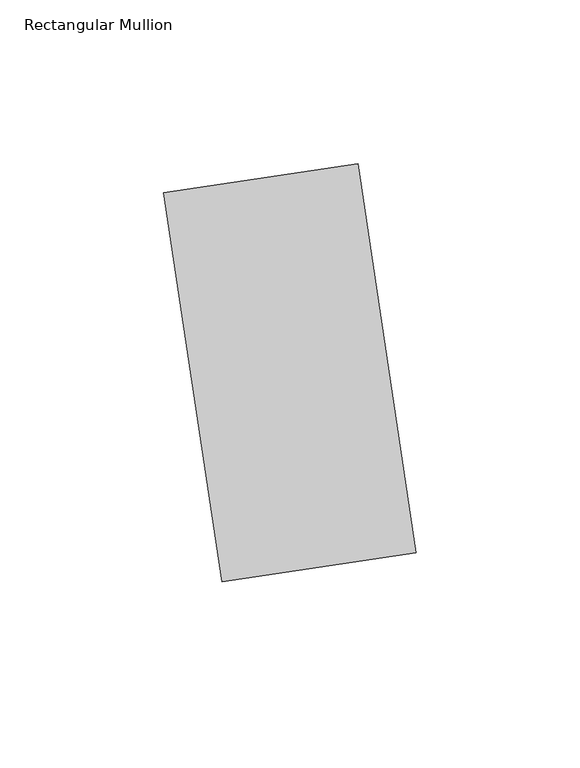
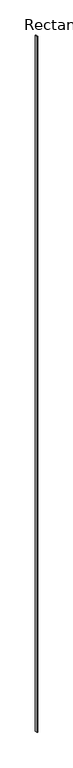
"""IFC4 building model written with IfcOpenShell, lengths in millimetres: member geometry, Rectangular Mullion : TERÇA 6x12 cm."""

from ifc_helpers import new_model, si_unit, frame, origin, place, context, project, spatial, polyline, outline, extrude, source, transform, mapped, element, save


def rectangular_mullion_024f61ed(model_context):
    return source(origin(), model_context, "Body", "SweptSolid", [
        extrude(outline(polyline([(29.6680906, 4.4502136), (-29.6680906, -4.4502136), (-47.4689449, 114.2221488), (11.8672362, 123.1225759), (29.6680906, 4.4502136)])), frame((0.0, 0.0, -39417.1092126), z_axis=(0.0, 0.0, 1.0), x_axis=(1.0, 0.0, 0.0)), (0.0, 0.0, 1.0), 39417.1092126),
    ])


if __name__ == "__main__":
    model = new_model("IFC4")
    model_context = context("Model", 3, world=origin())
    ifc_project = project(units=[si_unit("LENGTHUNIT", "METRE", prefix="MILLI")], contexts=[model_context])
    site = spatial("IfcSite", under=ifc_project)
    building = spatial("IfcBuilding", under=site)
    placement = place(None, origin())
    rectangular_mullion_shape = rectangular_mullion_024f61ed(model_context)
    element("IfcMember", 1, ObjectType="Rectangular Mullion : TERÇA 6x12 cm", at=placement, inside=building, context=model_context, shape_type="MappedRepresentation", body=[
        mapped(rectangular_mullion_shape, transform((0.0, 0.0, 0.0), x_axis=(1.0, 0.0, 0.0), y_axis=(0.0, 1.0, 0.0), z_axis=(0.0, 0.0, 1.0))),
    ])
    save(model, "model.ifc")
